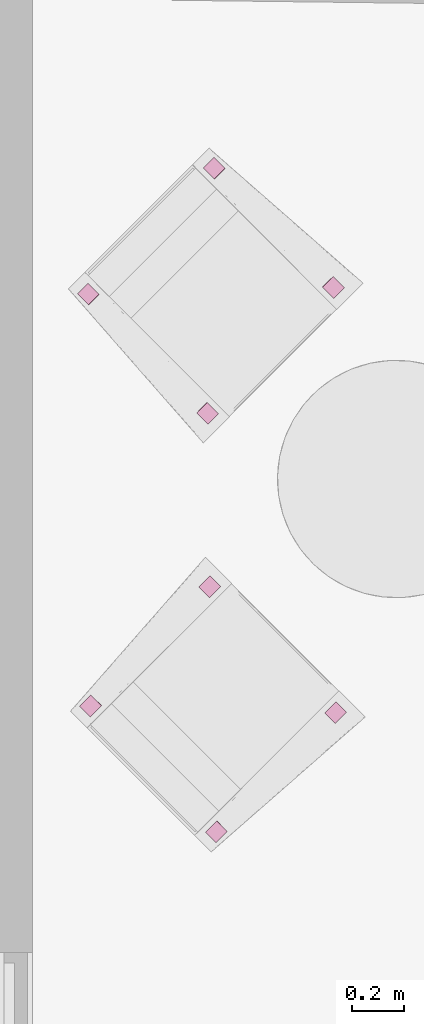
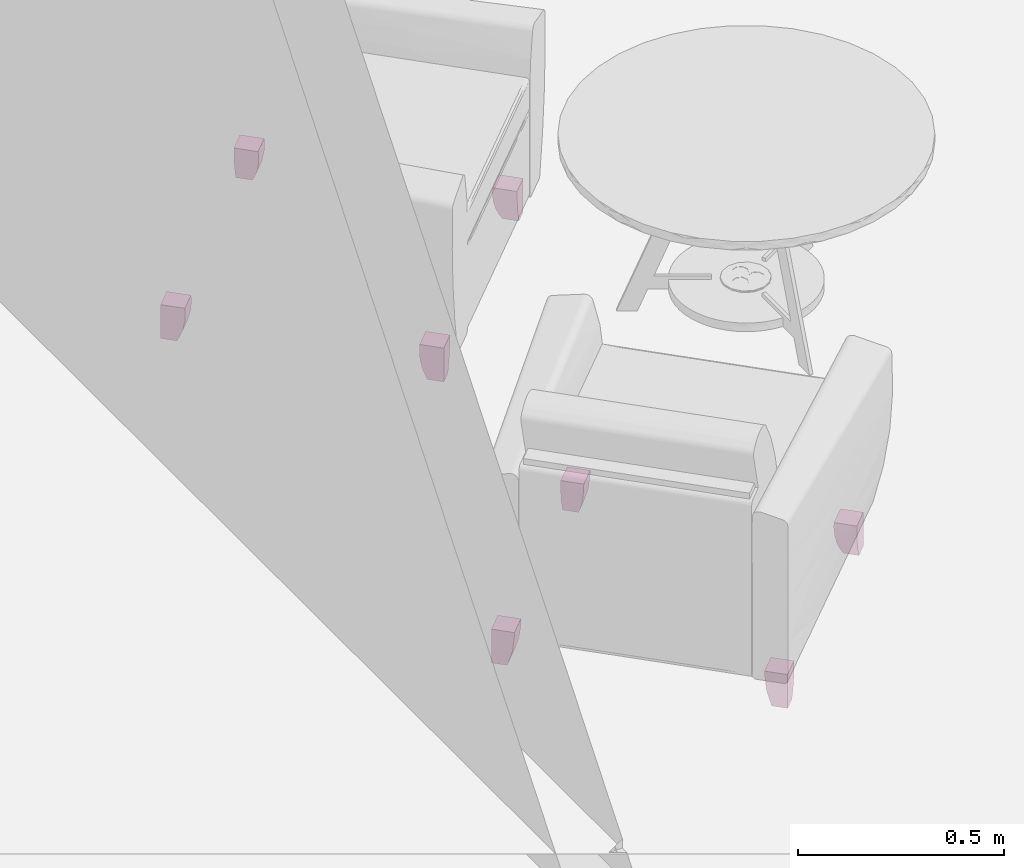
# One storey, part 15 of 17: 4 furnishings.
"""IFC2X3 building model written with IfcOpenShell, lengths in millimetres."""

from ifc_helpers import new_model, entity, si_unit, converted_unit, derived_unit, direction, frame, origin, place, context, subcontext, project, spatial, faceted_brep, source, transform, mapped, material, type_object, type_shapes, element, save


model = new_model("IFC2X3")

# Units and contexts
model_context = context("Model", 3, precision=0.01, world=origin(), true_north=direction((6.12303176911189e-17, 1.0)))
context_of_model = context(None, 3, precision=0.01, world=origin(), true_north=direction((6.12303176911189e-17, 1.0)))
body_context = subcontext(model_context, "Body", "Model", "MODEL_VIEW")
ifc_project = project(units=[si_unit("LENGTHUNIT", "METRE", prefix="MILLI"), si_unit("AREAUNIT", "SQUARE_METRE"), si_unit("VOLUMEUNIT", "CUBIC_METRE"), converted_unit("PLANEANGLEUNIT", "DEGREE", entity("IfcRatioMeasure", 0.0174532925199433), si_unit("PLANEANGLEUNIT", "RADIAN"), dimensions=[0, 0, 0, 0, 0, 0, 0]), si_unit("MASSUNIT", "GRAM", prefix="KILO"), derived_unit("MASSDENSITYUNIT", [(si_unit("MASSUNIT", "GRAM", prefix="KILO"), 1), (si_unit("LENGTHUNIT", "METRE"), -3)]), si_unit("TIMEUNIT", "SECOND"), si_unit("FREQUENCYUNIT", "HERTZ"), si_unit("THERMODYNAMICTEMPERATUREUNIT", "DEGREE_CELSIUS"), derived_unit("THERMALTRANSMITTANCEUNIT", [(si_unit("MASSUNIT", "GRAM", prefix="KILO"), 1), (si_unit("THERMODYNAMICTEMPERATUREUNIT", "KELVIN"), -1), (si_unit("TIMEUNIT", "SECOND"), -3)]), derived_unit("VOLUMETRICFLOWRATEUNIT", [(si_unit("LENGTHUNIT", "METRE"), 3), (si_unit("TIMEUNIT", "SECOND"), -1)]), si_unit("ELECTRICCURRENTUNIT", "AMPERE"), si_unit("ELECTRICVOLTAGEUNIT", "VOLT"), si_unit("POWERUNIT", "WATT"), si_unit("FORCEUNIT", "NEWTON", prefix="KILO"), si_unit("ILLUMINANCEUNIT", "LUX"), si_unit("LUMINOUSFLUXUNIT", "LUMEN"), si_unit("LUMINOUSINTENSITYUNIT", "CANDELA"), derived_unit("USERDEFINED", [(si_unit("MASSUNIT", "GRAM", prefix="KILO"), -1), (si_unit("LENGTHUNIT", "METRE"), -2), (si_unit("TIMEUNIT", "SECOND"), 3), (si_unit("LUMINOUSFLUXUNIT", "LUMEN"), 1)]), derived_unit("LINEARVELOCITYUNIT", [(si_unit("LENGTHUNIT", "METRE"), 1), (si_unit("TIMEUNIT", "SECOND"), -1)]), si_unit("PRESSUREUNIT", "PASCAL"), derived_unit("USERDEFINED", [(si_unit("LENGTHUNIT", "METRE"), -2), (si_unit("MASSUNIT", "GRAM", prefix="KILO"), 1), (si_unit("TIMEUNIT", "SECOND"), -2)])], contexts=[model_context, context_of_model])

# Site, building, storey
site_placement = place(None, frame((121442.264707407, 135347.995453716, -1800.0)))
site = spatial("IfcSite", under=ifc_project, at=site_placement, Name="Surface", CompositionType="ELEMENT")
building_placement = place(site_placement, origin())
building = spatial("IfcBuilding", under=site, at=building_placement, CompositionType="ELEMENT")
storey_placement = place(building_placement, frame((0.0, 0.0, -1490.0)))
storey = spatial("IfcBuildingStorey", under=building, at=storey_placement, Name="Kelder", CompositionType="ELEMENT", Elevation=-1489.99999999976)

# Furnishings
ifc_material = material(Name="Wood - Sauder® Manufacturing Co - Sample - Cherry - Stained")
furniture_type_1 = type_object("IfcFurnitureType", Name="Wood", AssemblyPlace="NOTDEFINED", material=ifc_material)
shared_shape_1 = source(origin(), body_context, "Body", "Brep", [
    faceted_brep([(-29.0, 294.031633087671, 94.4238602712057), (-29.0, 294.59999999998, 100.038208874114), (-29.0, 355.59999999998, 100.038208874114), (-29.0, 355.59999999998, 88.8526628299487), (-29.0, 293.653803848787, 88.8526628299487), (29.0, 355.59999999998, 0.0382088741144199), (29.0, 355.59999999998, 100.038208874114), (29.0, 294.599999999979, 100.038208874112), (29.0, 294.058936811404, 65.6374490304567), (29.0, 300.487423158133, 31.8383426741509), (29.0, 313.619693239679, 0.0382088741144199), (-10.8815902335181, 355.59999999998, 0.0382088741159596), (-23.9873919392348, 355.59999999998, 43.6199182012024), (-10.8815902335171, 313.61969323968, 0.0382088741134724), (-17.4978900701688, 305.072000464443, 18.5160905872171), (-22.829766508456, 298.712868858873, 38.2467497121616), (-26.6208712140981, 294.771729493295, 58.9393334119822), (-28.6812705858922, 293.431946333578, 80.1905676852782), (-28.8781200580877, 293.487384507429, 84.5216572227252)], [[[0, 1, 2, 3, 4]], [[5, 6, 7, 8, 9, 10]], [[3, 2, 6, 5, 11, 12]], [[2, 1, 7, 6]], [[10, 9, 13]], [[13, 9, 14]], [[9, 15, 14]], [[16, 15, 8]], [[15, 9, 8]], [[8, 7, 17]], [[17, 7, 18]], [[8, 17, 16]], [[18, 7, 4]], [[4, 7, 0]], [[7, 1, 0]], [[13, 11, 5, 10]], [[3, 16, 17]], [[16, 3, 12]], [[3, 18, 4]], [[18, 3, 17]], [[12, 11, 13]], [[12, 14, 15]], [[14, 12, 13]], [[12, 15, 16]]]),
    faceted_brep([(-29.0, -294.030021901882, 94.4047609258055), (-29.0, -293.653803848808, 88.8526628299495), (-29.0, -355.600000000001, 88.8526628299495), (-29.0, -355.600000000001, 100.0), (-29.0, -294.595491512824, 100.0), (29.0, -355.600000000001, 0.0), (29.0, -313.640250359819, 0.0), (29.0, -300.499358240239, 31.7983350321), (29.0, -294.062391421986, 65.5974861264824), (29.0, -294.595491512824, 100.0), (29.0, -355.600000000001, 100.0), (-23.9832739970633, -355.600000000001, 43.599736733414), (-10.86619288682, -355.600000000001, 0.0), (-28.6812705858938, -293.431946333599, 80.1905676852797), (-28.8781200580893, -293.48738450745, 84.5216572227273), (-22.8248155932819, -298.718451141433, 38.2249384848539), (-10.86619288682, -313.64025035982, 0.0), (-26.6192800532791, -294.773166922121, 58.9279817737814), (-17.4881781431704, -305.084088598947, 18.4852159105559)], [[[0, 1, 2, 3, 4]], [[5, 6, 7, 8, 9, 10]], [[3, 2, 11, 12, 5, 10]], [[4, 3, 10, 9]], [[9, 13, 14]], [[13, 9, 8]], [[9, 14, 1]], [[9, 0, 4]], [[0, 9, 1]], [[15, 8, 7]], [[16, 7, 6]], [[17, 8, 15]], [[15, 7, 18]], [[7, 16, 18]], [[8, 17, 13]], [[12, 16, 6, 5]], [[12, 11, 16]], [[11, 18, 16]], [[18, 11, 15]], [[11, 17, 15]], [[17, 2, 13]], [[2, 17, 11]], [[2, 14, 13]], [[14, 2, 1]]]),
])
type_shapes(furniture_type_1, [shared_shape_1])
for number, where, z_axis, x_axis, name in (
    (1, (-112583.990243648, -118117.694207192, 0.0382088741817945), (0.0, 0.0, 1.0), (-0.707106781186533, 0.707106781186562, 0.0), "Leg-Sauder_MFG_CO.-Rally-Wood:Wood"),
    (2, (-112107.693542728, -116505.311717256, 0.0382088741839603), (0.0, 0.0, 1.0), (0.707106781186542, 0.707106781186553, 0.0), "Leg-Sauder_MFG_CO.-Rally-Wood:Wood"),
):
    element("IfcFurnishingElement", number, at=place(storey_placement, frame(where, z_axis=z_axis, x_axis=x_axis)), inside=storey, type_object=furniture_type_1, material=ifc_material, Name=name, ObjectType="Wood", context=body_context, shape_type="MappedRepresentation", body=[
        mapped(shared_shape_1, transform((0.0, 0.0, 0.0), scale=1.0)),
    ])
furniture_type_2 = type_object("IfcFurnitureType", Name="Wood", AssemblyPlace="NOTDEFINED", material=ifc_material)
shared_shape_2 = source(origin(), body_context, "Body", "Brep", [
    faceted_brep([(-29.0, -293.653803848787, 88.8526628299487), (-29.0, -355.59999999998, 88.8526628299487), (-29.0, -355.59999999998, 100.038208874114), (-29.0, -294.599999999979, 100.038208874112), (-29.0, -294.031633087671, 94.4238602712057), (29.0, -300.487423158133, 31.8383426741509), (29.0, -294.058936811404, 65.6374490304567), (29.0, -294.59999999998, 100.038208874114), (29.0, -355.59999999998, 100.038208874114), (29.0, -355.59999999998, 0.0382088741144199), (29.0, -313.61969323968, 0.0382088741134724), (-23.9873919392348, -355.59999999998, 43.6199182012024), (-10.8815902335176, -355.59999999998, 0.0382088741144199), (-10.8815902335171, -313.61969323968, 0.0382088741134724), (-17.4978900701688, -305.072000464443, 18.5160905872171), (-22.829766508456, -298.712868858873, 38.2467497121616), (-26.6208712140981, -294.771729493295, 58.9393334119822), (-28.6812705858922, -293.431946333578, 80.1905676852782), (-28.8781200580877, -293.487384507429, 84.5216572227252)], [[[0, 1, 2, 3, 4]], [[5, 6, 7, 8, 9, 10]], [[8, 2, 1, 11, 12, 9]], [[8, 7, 3, 2]], [[13, 5, 10]], [[14, 5, 13]], [[14, 15, 5]], [[6, 15, 16]], [[6, 5, 15]], [[17, 7, 6]], [[18, 7, 17]], [[16, 17, 6]], [[0, 7, 18]], [[4, 7, 0]], [[4, 3, 7]], [[9, 12, 13, 10]], [[17, 16, 1]], [[11, 1, 16]], [[0, 18, 1]], [[17, 1, 18]], [[13, 12, 11]], [[15, 14, 11]], [[13, 11, 14]], [[16, 15, 11]]]),
    faceted_brep([(-29.0, 355.600000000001, 88.8526628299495), (-29.0, 293.653803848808, 88.8526628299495), (-29.0, 294.030021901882, 94.4047609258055), (-29.0, 294.595491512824, 100.0), (-29.0, 355.600000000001, 100.0), (29.0, 355.600000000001, 0.0), (29.0, 355.600000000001, 100.0), (29.0, 294.595491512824, 100.0), (29.0, 294.062391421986, 65.5974861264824), (29.0, 300.499358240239, 31.7983350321), (29.0, 313.64025035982, 0.0), (-10.86619288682, 355.600000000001, 0.0), (-23.9832739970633, 355.600000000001, 43.599736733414), (-28.8781200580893, 293.48738450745, 84.5216572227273), (-28.6812705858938, 293.431946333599, 80.1905676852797), (-22.8248155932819, 298.718451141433, 38.2249384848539), (-10.86619288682, 313.64025035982, 0.0), (-26.6192800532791, 294.773166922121, 58.9279817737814), (-17.4881781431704, 305.084088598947, 18.4852159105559)], [[[0, 1, 2, 3, 4]], [[5, 6, 7, 8, 9, 10]], [[6, 5, 11, 12, 0, 4]], [[6, 4, 3, 7]], [[13, 14, 7]], [[8, 7, 14]], [[1, 13, 7]], [[3, 2, 7]], [[1, 7, 2]], [[9, 8, 15]], [[10, 9, 16]], [[15, 8, 17]], [[18, 9, 15]], [[18, 16, 9]], [[14, 17, 8]], [[10, 16, 11, 5]], [[16, 12, 11]], [[16, 18, 12]], [[15, 12, 18]], [[15, 17, 12]], [[14, 0, 17]], [[12, 17, 0]], [[14, 13, 0]], [[1, 0, 13]]]),
])
type_shapes(furniture_type_2, [shared_shape_2])
for number, where, z_axis, x_axis, name in (
    (3, (-112099.05641311, -118602.628037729, 0.0382088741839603), (0.0, 0.0, 1.0), (0.707106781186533, -0.707106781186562, 0.0), "Leg-Sauder_MFG_CO.-Rally-Wood:Wood"),
    (4, (-112592.627373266, -116990.245547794, 0.0382088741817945), (0.0, 0.0, 1.0), (-0.707106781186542, -0.707106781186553, 0.0), "Leg-Sauder_MFG_CO.-Rally-Wood:Wood"),
):
    element("IfcFurnishingElement", number, at=place(storey_placement, frame(where, z_axis=z_axis, x_axis=x_axis)), inside=storey, type_object=furniture_type_2, material=ifc_material, Name=name, ObjectType="Wood", context=body_context, shape_type="MappedRepresentation", body=[
        mapped(shared_shape_2, transform((0.0, 0.0, 0.0), scale=1.0)),
    ])

save(model, "model.ifc")
